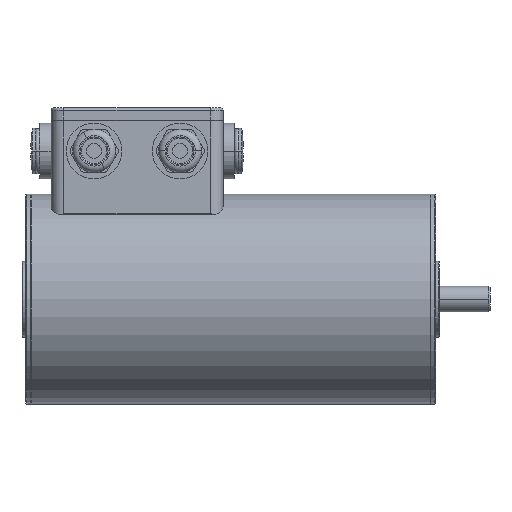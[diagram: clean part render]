
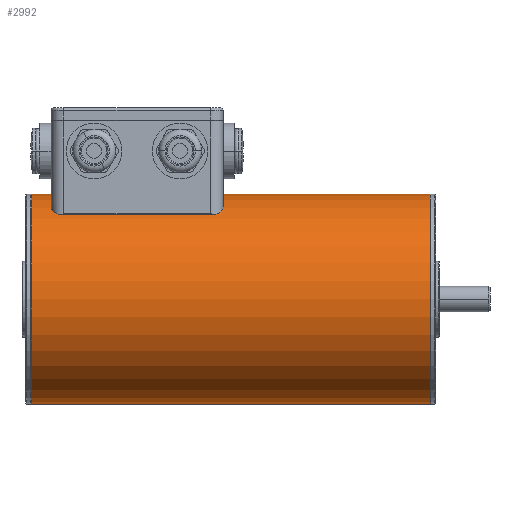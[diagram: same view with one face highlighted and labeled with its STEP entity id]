
A CAD part, top view. The second image highlights one B-rep face of the part: STEP entity #2992.
In plain terms, the highlighted cylindrical face has radius 41.5 mm (diameter 83 mm), a partial arc.
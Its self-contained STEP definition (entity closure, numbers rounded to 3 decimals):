
#353 = AXIS2_PLACEMENT_3D ( 'NONE', #11379, #849, #4693 ) ;
#550 = DIRECTION ( 'NONE',  ( 1., 0., 0. ) ) ;
#637 = CARTESIAN_POINT ( 'NONE',  ( -2., 41.5, 0. ) ) ;
#705 = EDGE_CURVE ( 'NONE', #12239, #7400, #11248, .T. ) ;
#849 = DIRECTION ( 'NONE',  ( 1., 0., 0. ) ) ;
#1003 = CARTESIAN_POINT ( 'NONE',  ( -2.1, 41.5, 0. ) ) ;
#1280 = FACE_OUTER_BOUND ( 'NONE', #5474, .T. ) ;
#1536 = AXIS2_PLACEMENT_3D ( 'NONE', #11722, #12185, #12275 ) ;
#1885 = ORIENTED_EDGE ( 'NONE', *, *, #705, .F. ) ;
#2448 = EDGE_CURVE ( 'NONE', #11702, #12239, #11208, .T. ) ;
#2629 = CYLINDRICAL_SURFACE ( 'NONE', #353, 41.5 ) ;
#2992 = ADVANCED_FACE ( 'NONE', ( #1280 ), #2629, .T. ) ;
#3992 = CARTESIAN_POINT ( 'NONE',  ( -159.9, 41.5, 0. ) ) ;
#4580 = DIRECTION ( 'NONE',  ( 1., 0., 0. ) ) ;
#4666 = LINE ( 'NONE', #6246, #12073 ) ;
#4693 = DIRECTION ( 'NONE',  ( 0., 1., 0. ) ) ;
#5097 = CARTESIAN_POINT ( 'NONE',  ( -159.9, -41.5, 0. ) ) ;
#5458 = ORIENTED_EDGE ( 'NONE', *, *, #2448, .F. ) ;
#5474 = EDGE_LOOP ( 'NONE', ( #9616, #8105, #1885, #5458 ) ) ;
#6246 = CARTESIAN_POINT ( 'NONE',  ( -2., -41.5, 0. ) ) ;
#7400 = VERTEX_POINT ( 'NONE', #12199 ) ;
#8105 = ORIENTED_EDGE ( 'NONE', *, *, #10909, .T. ) ;
#9235 = CIRCLE ( 'NONE', #12410, 41.5 ) ;
#9287 = DIRECTION ( 'NONE',  ( 1., 0., 0. ) ) ;
#9417 = EDGE_CURVE ( 'NONE', #11702, #12425, #9235, .T. ) ;
#9616 = ORIENTED_EDGE ( 'NONE', *, *, #9417, .T. ) ;
#10321 = VECTOR ( 'NONE', #9287, 1000. ) ;
#10378 = CARTESIAN_POINT ( 'NONE',  ( -159.9, 0., 0. ) ) ;
#10909 = EDGE_CURVE ( 'NONE', #12425, #7400, #4666, .T. ) ;
#11208 = LINE ( 'NONE', #637, #10321 ) ;
#11248 = CIRCLE ( 'NONE', #1536, 41.5 ) ;
#11329 = DIRECTION ( 'NONE',  ( 0., 1., 0. ) ) ;
#11379 = CARTESIAN_POINT ( 'NONE',  ( -2., 0., 0. ) ) ;
#11702 = VERTEX_POINT ( 'NONE', #3992 ) ;
#11722 = CARTESIAN_POINT ( 'NONE',  ( -2.1, 0., 0. ) ) ;
#12073 = VECTOR ( 'NONE', #550, 1000. ) ;
#12185 = DIRECTION ( 'NONE',  ( 1., 0., 0. ) ) ;
#12199 = CARTESIAN_POINT ( 'NONE',  ( -2.1, -41.5, 0. ) ) ;
#12239 = VERTEX_POINT ( 'NONE', #1003 ) ;
#12275 = DIRECTION ( 'NONE',  ( 0., 1., 0. ) ) ;
#12410 = AXIS2_PLACEMENT_3D ( 'NONE', #10378, #4580, #11329 ) ;
#12425 = VERTEX_POINT ( 'NONE', #5097 ) ;
